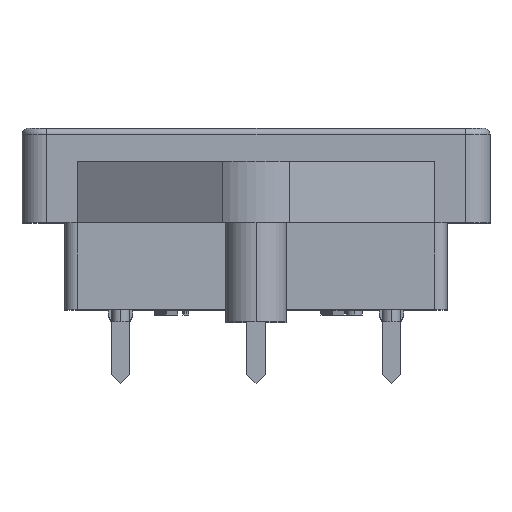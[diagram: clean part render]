
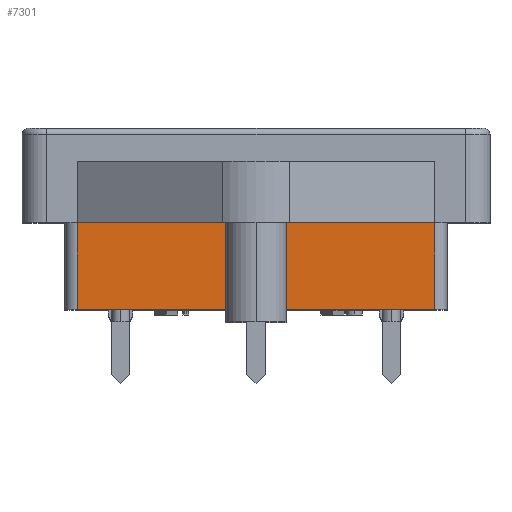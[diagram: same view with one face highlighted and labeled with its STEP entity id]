
A CAD part, top view. The second image highlights one B-rep face of the part: STEP entity #7301.
In plain terms, the highlighted planar face has unit normal (0, 0, 1).
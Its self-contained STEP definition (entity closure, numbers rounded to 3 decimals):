
#1149 = ORIENTED_EDGE ( 'NONE', *, *, #33978, .F. ) ;
#1493 = ORIENTED_EDGE ( 'NONE', *, *, #6991, .T. ) ;
#1900 = VERTEX_POINT ( 'NONE', #36561 ) ;
#2499 = DIRECTION ( 'NONE',  ( 1., 0., 0. ) ) ;
#5764 = CARTESIAN_POINT ( 'NONE',  ( -14.6, -14.7, 16.5 ) ) ;
#6991 = EDGE_CURVE ( 'NONE', #28001, #1900, #23036, .T. ) ;
#7301 = ADVANCED_FACE ( 'NONE', ( #13237 ), #13593, .F. ) ;
#11250 = DIRECTION ( 'NONE',  ( 0., 1., 0. ) ) ;
#11355 = VECTOR ( 'NONE', #11250, 1000. ) ;
#11964 = CARTESIAN_POINT ( 'NONE',  ( 14.6, -7.7, 16.5 ) ) ;
#12637 = CARTESIAN_POINT ( 'NONE',  ( -14.6, -7.7, 16.5 ) ) ;
#13237 = FACE_OUTER_BOUND ( 'NONE', #23088, .T. ) ;
#13593 = PLANE ( 'NONE',  #13752 ) ;
#13752 = AXIS2_PLACEMENT_3D ( 'NONE', #35563, #38692, #19878 ) ;
#15292 = ORIENTED_EDGE ( 'NONE', *, *, #23898, .T. ) ;
#18476 = DIRECTION ( 'NONE',  ( 1., 0., 0. ) ) ;
#19876 = VECTOR ( 'NONE', #21509, 1000. ) ;
#19878 = DIRECTION ( 'NONE',  ( -1., 0., 0. ) ) ;
#20499 = EDGE_CURVE ( 'NONE', #27729, #28001, #28230, .T. ) ;
#21509 = DIRECTION ( 'NONE',  ( 0., -1., 0. ) ) ;
#22715 = VERTEX_POINT ( 'NONE', #11964 ) ;
#23036 = LINE ( 'NONE', #40135, #38770 ) ;
#23088 = EDGE_LOOP ( 'NONE', ( #15292, #1149, #33743, #1493 ) ) ;
#23898 = EDGE_CURVE ( 'NONE', #1900, #22715, #28053, .T. ) ;
#27729 = VERTEX_POINT ( 'NONE', #12637 ) ;
#28001 = VERTEX_POINT ( 'NONE', #29693 ) ;
#28053 = LINE ( 'NONE', #39399, #11355 ) ;
#28230 = LINE ( 'NONE', #5764, #19876 ) ;
#29693 = CARTESIAN_POINT ( 'NONE',  ( -14.6, -14.8, 16.5 ) ) ;
#30510 = VECTOR ( 'NONE', #18476, 1000. ) ;
#33743 = ORIENTED_EDGE ( 'NONE', *, *, #20499, .T. ) ;
#33978 = EDGE_CURVE ( 'NONE', #27729, #22715, #38876, .T. ) ;
#35563 = CARTESIAN_POINT ( 'NONE',  ( 3.4, -48.201, 16.5 ) ) ;
#36561 = CARTESIAN_POINT ( 'NONE',  ( 14.6, -14.8, 16.5 ) ) ;
#37305 = CARTESIAN_POINT ( 'NONE',  ( -7.6, -7.7, 16.5 ) ) ;
#38692 = DIRECTION ( 'NONE',  ( 0., 0., -1. ) ) ;
#38770 = VECTOR ( 'NONE', #2499, 1000. ) ;
#38876 = LINE ( 'NONE', #37305, #30510 ) ;
#39399 = CARTESIAN_POINT ( 'NONE',  ( 14.6, -3.6, 16.5 ) ) ;
#40135 = CARTESIAN_POINT ( 'NONE',  ( -15.6, -14.8, 16.5 ) ) ;
